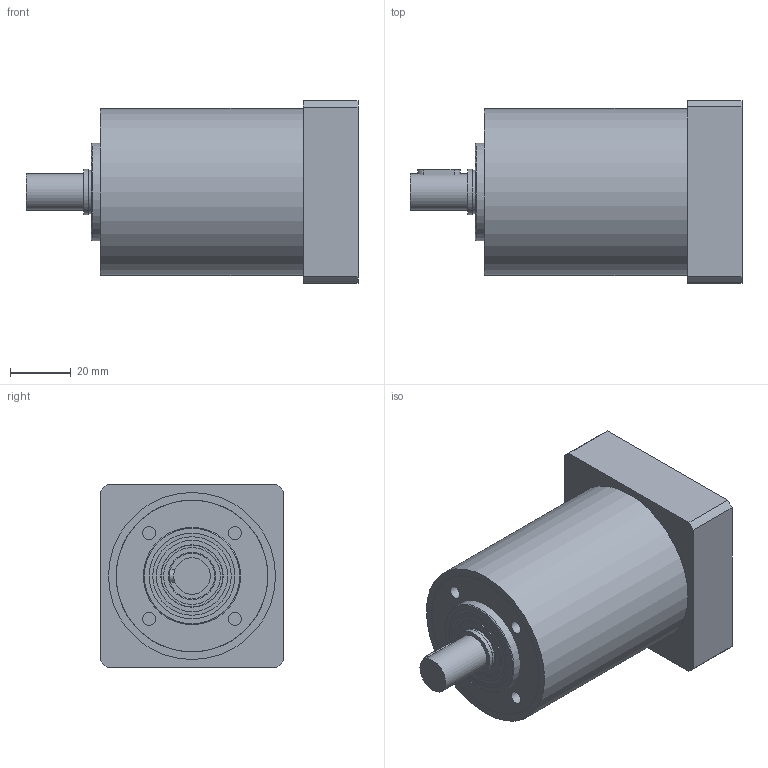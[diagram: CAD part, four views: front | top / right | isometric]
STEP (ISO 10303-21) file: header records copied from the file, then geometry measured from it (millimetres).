
FILE_DESCRIPTION(/* description */ (''),/* implementation_level */ '2;1');
FILE_NAME(/* name */ 'E00017964713MP040509080324_step214.stp',/* time_stamp */ '2009-05-04T08:05:27+02:00',/* author */ (''),/* organization */ (''),/* preprocessor_version */ 'ST-DEVELOPER v11',/* originating_system */ 'UGS - NX 5.0',/* authorisation */ '');
FILE_SCHEMA (('AUTOMOTIVE_DESIGN { 1 0 10303 214 0 1 1 1 }'));
Length unit declared in the file: millimetre
Products named in the file (1): E00017964713MP040509080324_M
Bounding box: 109.3 x 60 x 60 mm (x, y, z)
Volume: 270055.1 mm3; surface area: 59683.7 mm2
Topology: 12 solids, 12 shells, 140 faces, 288 edges, 183 vertices
Faces by surface type: cylinder 53, plane 50, cone 27, torus 10
Full cylindrical faces by diameter (mm): 3.432 x9, 4.351 x4, 4.5 x1, 6.35 x1, 7.5 x1, 9.75 x1, 10 x1, 12 x1, 14.3 x1, 15 x4, 18.7 x2, 20.5 x2, 27 x2, 28.2 x4, 32 x1, 35.5 x1, 38.1 x1, 43 x1, 46.8 x1, 49.95 x1, 50 x3, 55 x1
Entity records: 3266 total; most frequent: DIRECTION 584, CARTESIAN_POINT 554, ORIENTED_EDGE 362, AXIS2_PLACEMENT_3D 265, EDGE_LOOP 244, FACE_BOUND 220, EDGE_CURVE 181, VERTEX_POINT 165
